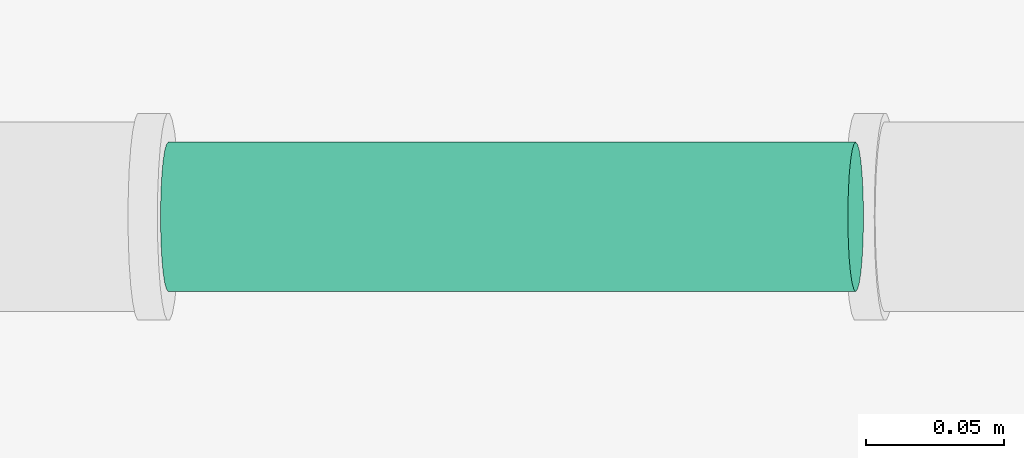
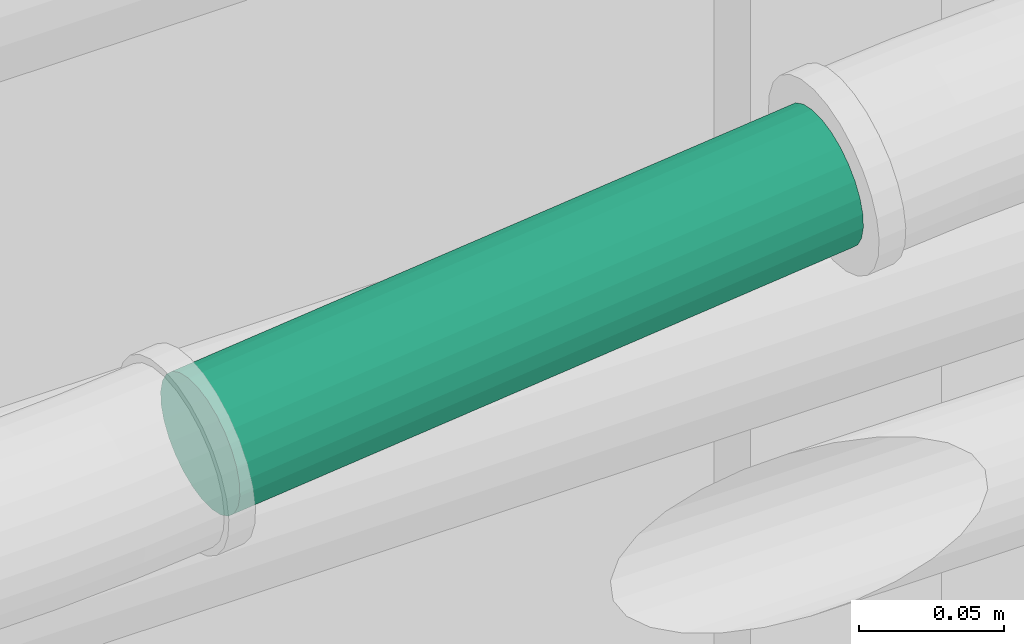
# One storey, part 60 of 108: 1 pipe segment.
"""IFC4 building model written with IfcOpenShell, lengths in feet."""

from ifc_helpers import new_model, entity, si_unit, converted_unit, derived_unit, direction, frame, frame_2d, origin, place, context, subcontext, project, spatial, circle, extrude, type_object, element, save


model = new_model("IFC4")

# Units and contexts
model_context = context("Model", 3, precision=0.0001, world=origin(), true_north=direction((6.12303176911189e-17, 1.0)))
body_context = subcontext(model_context, "Body", "Model", "MODEL_VIEW")
ifc_project = project(units=[converted_unit("LENGTHUNIT", "FOOT", entity("IfcRatioMeasure", 0.3048), si_unit("LENGTHUNIT", "METRE"), dimensions=[1, 0, 0, 0, 0, 0, 0]), converted_unit("AREAUNIT", "SQUARE FOOT", entity("IfcRatioMeasure", 0.09290304), si_unit("AREAUNIT", "SQUARE_METRE"), dimensions=[2, 0, 0, 0, 0, 0, 0]), converted_unit("VOLUMEUNIT", "CUBIC FOOT", entity("IfcRatioMeasure", 0.028316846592), si_unit("VOLUMEUNIT", "CUBIC_METRE"), dimensions=[3, 0, 0, 0, 0, 0, 0]), converted_unit("PLANEANGLEUNIT", "DEGREE", entity("IfcRatioMeasure", 0.0174532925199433), si_unit("PLANEANGLEUNIT", "RADIAN"), dimensions=[0, 0, 0, 0, 0, 0, 0]), si_unit("MASSUNIT", "GRAM", prefix="KILO"), derived_unit("MASSDENSITYUNIT", [(si_unit("MASSUNIT", "GRAM", prefix="KILO"), 1), (si_unit("LENGTHUNIT", "METRE"), -3)]), si_unit("TIMEUNIT", "SECOND"), si_unit("FREQUENCYUNIT", "HERTZ"), si_unit("THERMODYNAMICTEMPERATUREUNIT", "DEGREE_CELSIUS"), derived_unit("THERMALTRANSMITTANCEUNIT", [(si_unit("MASSUNIT", "GRAM", prefix="KILO"), 1), (si_unit("THERMODYNAMICTEMPERATUREUNIT", "KELVIN"), -1), (si_unit("TIMEUNIT", "SECOND"), -3)]), derived_unit("VOLUMETRICFLOWRATEUNIT", [(si_unit("LENGTHUNIT", "METRE"), 3), (si_unit("TIMEUNIT", "SECOND"), -1)]), si_unit("ELECTRICCURRENTUNIT", "AMPERE"), si_unit("ELECTRICVOLTAGEUNIT", "VOLT"), si_unit("POWERUNIT", "WATT"), si_unit("FORCEUNIT", "NEWTON"), si_unit("ILLUMINANCEUNIT", "LUX"), si_unit("LUMINOUSFLUXUNIT", "LUMEN"), si_unit("LUMINOUSINTENSITYUNIT", "CANDELA"), derived_unit("USERDEFINED", [(si_unit("MASSUNIT", "GRAM", prefix="KILO"), -1), (si_unit("LENGTHUNIT", "METRE"), -2), (si_unit("TIMEUNIT", "SECOND"), 3), (si_unit("LUMINOUSFLUXUNIT", "LUMEN"), 1)]), derived_unit("LINEARVELOCITYUNIT", [(si_unit("LENGTHUNIT", "METRE"), 1), (si_unit("TIMEUNIT", "SECOND"), -1)]), si_unit("PRESSUREUNIT", "PASCAL"), derived_unit("USERDEFINED", [(si_unit("LENGTHUNIT", "METRE"), -2), (si_unit("MASSUNIT", "GRAM", prefix="KILO"), 1), (si_unit("TIMEUNIT", "SECOND"), -2)])], contexts=[model_context])

# Site, building, storey
site_placement = place(None, origin())
site = spatial("IfcSite", under=ifc_project, at=site_placement, Name="Default", CompositionType="ELEMENT")
building_placement = place(site_placement, origin())
building = spatial("IfcBuilding", under=site, at=building_placement, CompositionType="ELEMENT")
storey_placement = place(building_placement, frame((0.0, 0.0, 168.0)))
storey = spatial("IfcBuildingStorey", under=building, at=storey_placement, Name="Level 15", CompositionType="ELEMENT", Elevation=168.0)

# Pipe segment
pipe_segment_type = type_object("IfcPipeSegmentType", Name="Pipe Types:Hydronic", PredefinedType="NOTDEFINED")
pipe_segment_placement = place(storey_placement, frame((-45.9091173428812, 10.3276273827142, 9.59302157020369)))
element("IfcPipeSegment", 1, at=pipe_segment_placement, inside=storey, type_object=pipe_segment_type, Name="Pipe Types:Hydronic", ObjectType="Pipe Types:Hydronic", PredefinedType="NOTDEFINED", context=body_context, shape_type="SweptSolid", body=[
    extrude(circle(Radius=0.0885416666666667, at=frame_2d((0.0, -7.42719402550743e-16), x_axis=(1.0, 0.0))), frame((0.0144889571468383, 0.0937754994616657, 0.0932904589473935), z_axis=(0.994521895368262, 0.0, 0.104528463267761), x_axis=(0.0, -1.0, 0.0)), (0.0, 0.0, 1.0), 0.819961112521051),
])

save(model, "model.ifc")
